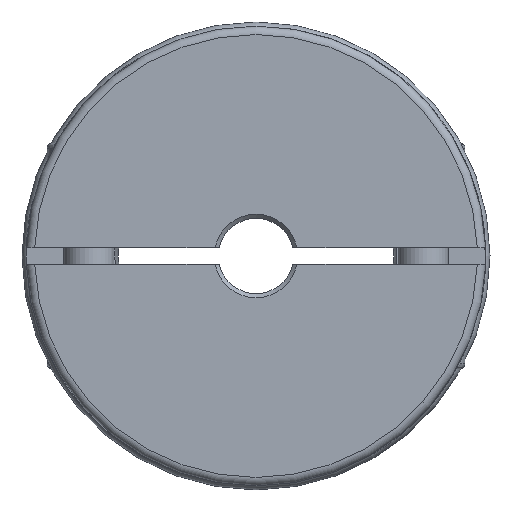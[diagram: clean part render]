
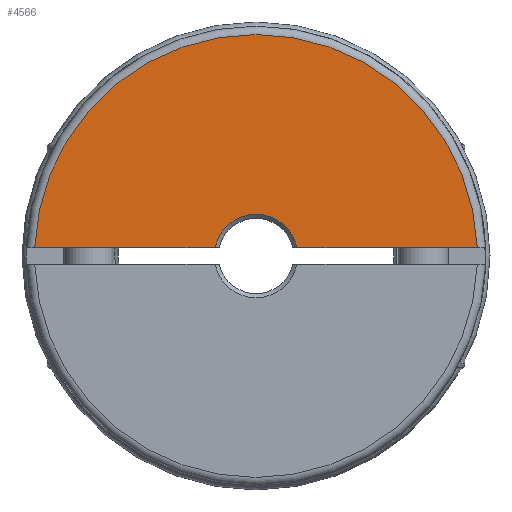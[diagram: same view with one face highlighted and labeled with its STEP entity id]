
A CAD part, left-side view. The second image highlights one B-rep face of the part: STEP entity #4566.
In plain terms, the highlighted planar face has unit normal (-1, 0, 0).
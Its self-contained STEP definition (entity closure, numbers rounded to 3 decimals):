
#98=LINE('',#7142,#242);
#107=LINE('',#7176,#251);
#242=VECTOR('',#5640,1000.);
#251=VECTOR('',#5659,1000.);
#1023=ORIENTED_EDGE('',*,*,#1536,.T.);
#1024=ORIENTED_EDGE('',*,*,#1476,.T.);
#1025=ORIENTED_EDGE('',*,*,#1522,.F.);
#1026=ORIENTED_EDGE('',*,*,#1552,.F.);
#1476=EDGE_CURVE('',#1823,#1821,#2063,.T.);
#1522=EDGE_CURVE('',#1866,#1821,#98,.T.);
#1536=EDGE_CURVE('',#1872,#1823,#107,.T.);
#1552=EDGE_CURVE('',#1872,#1866,#2094,.T.);
#1821=VERTEX_POINT('',#6841);
#1823=VERTEX_POINT('',#6844);
#1866=VERTEX_POINT('',#7143);
#1872=VERTEX_POINT('',#7177);
#2063=CIRCLE('',#4860,5.);
#2094=CIRCLE('',#4913,26.5);
#2364=EDGE_LOOP('',(#1023,#1024,#1025,#1026));
#2694=FACE_BOUND('',#2364,.T.);
#2878=PLANE('',#4931);
#4566=ADVANCED_FACE('',(#2694),#2878,.F.);
#4860=AXIS2_PLACEMENT_3D('',#6843,#5560,#5561);
#4913=AXIS2_PLACEMENT_3D('',#7219,#5690,#5691);
#4931=AXIS2_PLACEMENT_3D('',#7237,#5726,#5727);
#5560=DIRECTION('',(1.,0.,0.));
#5561=DIRECTION('',(0.,-1.,0.));
#5640=DIRECTION('',(0.,1.,0.));
#5659=DIRECTION('',(0.,-1.,0.));
#5690=DIRECTION('',(1.,0.,0.));
#5691=DIRECTION('',(0.,-1.,0.));
#5726=DIRECTION('',(1.,0.,0.));
#5727=DIRECTION('',(0.,-1.,0.));
#6841=CARTESIAN_POINT('',(-32.978,-4.899,1.));
#6843=CARTESIAN_POINT('',(-32.978,0.,0.));
#6844=CARTESIAN_POINT('',(-32.978,4.899,1.));
#7142=CARTESIAN_POINT('',(-32.978,27.5,1.));
#7143=CARTESIAN_POINT('',(-32.978,-26.481,1.));
#7176=CARTESIAN_POINT('',(-32.978,27.5,1.));
#7177=CARTESIAN_POINT('',(-32.978,26.481,1.));
#7219=CARTESIAN_POINT('',(-32.978,0.,0.));
#7237=CARTESIAN_POINT('',(-32.978,27.5,0.));
